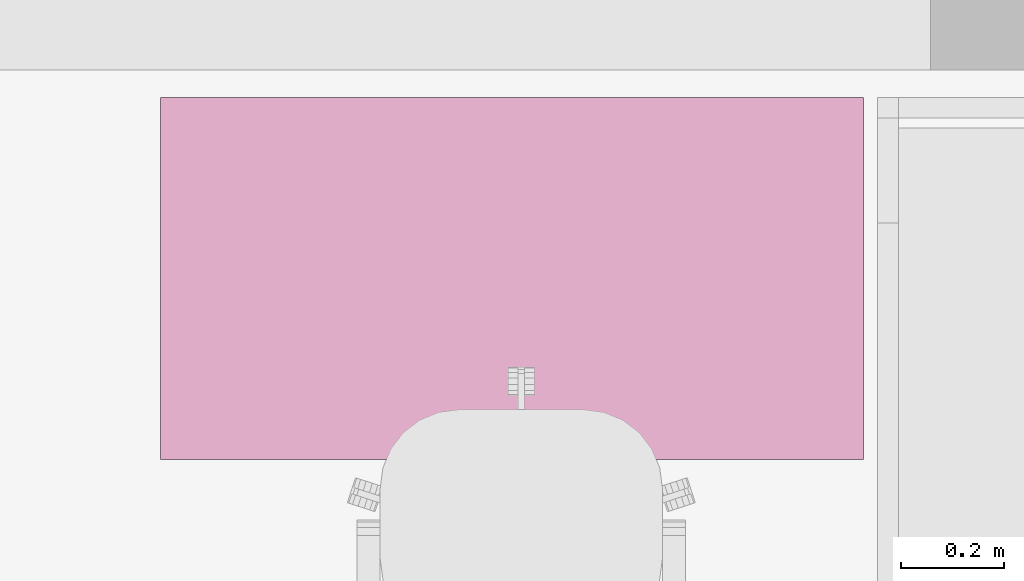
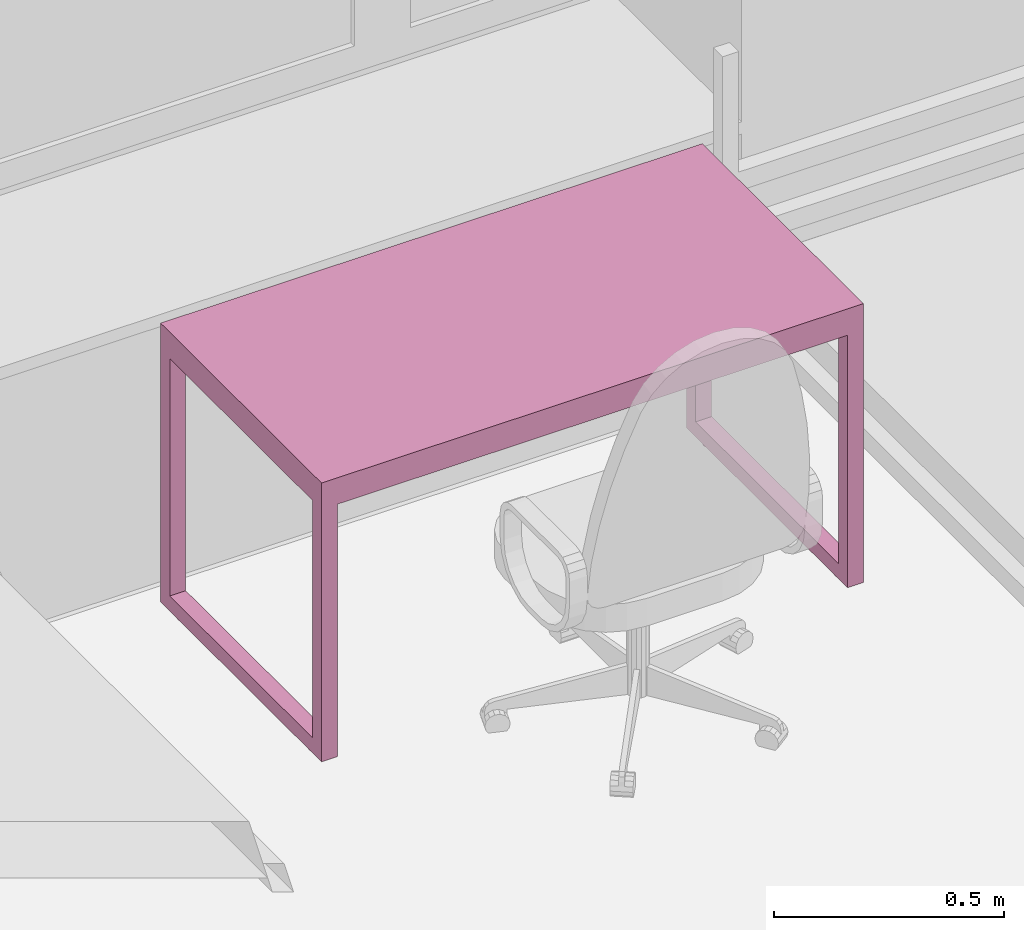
# One storey, part 46 of 46: 1 furnishing.
"""IFC2X3 building model written with IfcOpenShell, lengths in millimetres."""

from ifc_helpers import new_model, entity, si_unit, converted_unit, derived_unit, direction, frame, origin, place, context, subcontext, project, spatial, faceted_brep, source, transform, mapped, material, material_list, type_object, type_shapes, element, save


model = new_model("IFC2X3")

# Units and contexts
model_context = context("Model", 3, precision=0.01, world=origin(), true_north=direction((6.12303176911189e-17, 1.0)))
body_context = subcontext(model_context, "Body", "Model", "MODEL_VIEW")
ifc_project = project(units=[si_unit("LENGTHUNIT", "METRE", prefix="MILLI"), si_unit("AREAUNIT", "SQUARE_METRE"), si_unit("VOLUMEUNIT", "CUBIC_METRE"), converted_unit("PLANEANGLEUNIT", "DEGREE", entity("IfcRatioMeasure", 0.0174532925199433), si_unit("PLANEANGLEUNIT", "RADIAN"), dimensions=[0, 0, 0, 0, 0, 0, 0]), si_unit("MASSUNIT", "GRAM", prefix="KILO"), derived_unit("MASSDENSITYUNIT", [(si_unit("MASSUNIT", "GRAM", prefix="KILO"), 1), (si_unit("LENGTHUNIT", "METRE"), -3)]), si_unit("TIMEUNIT", "SECOND"), si_unit("FREQUENCYUNIT", "HERTZ"), si_unit("THERMODYNAMICTEMPERATUREUNIT", "DEGREE_CELSIUS"), derived_unit("THERMALTRANSMITTANCEUNIT", [(si_unit("MASSUNIT", "GRAM", prefix="KILO"), 1), (si_unit("THERMODYNAMICTEMPERATUREUNIT", "KELVIN"), -1), (si_unit("TIMEUNIT", "SECOND"), -3)]), derived_unit("VOLUMETRICFLOWRATEUNIT", [(si_unit("LENGTHUNIT", "METRE"), 3), (si_unit("TIMEUNIT", "SECOND"), -1)]), si_unit("ELECTRICCURRENTUNIT", "AMPERE"), si_unit("ELECTRICVOLTAGEUNIT", "VOLT"), si_unit("POWERUNIT", "WATT"), si_unit("FORCEUNIT", "NEWTON", prefix="KILO"), si_unit("ILLUMINANCEUNIT", "LUX"), si_unit("LUMINOUSFLUXUNIT", "LUMEN"), si_unit("LUMINOUSINTENSITYUNIT", "CANDELA"), derived_unit("USERDEFINED", [(si_unit("MASSUNIT", "GRAM", prefix="KILO"), -1), (si_unit("LENGTHUNIT", "METRE"), -2), (si_unit("TIMEUNIT", "SECOND"), 3), (si_unit("LUMINOUSFLUXUNIT", "LUMEN"), 1)]), derived_unit("LINEARVELOCITYUNIT", [(si_unit("LENGTHUNIT", "METRE"), 1), (si_unit("TIMEUNIT", "SECOND"), -1)]), si_unit("PRESSUREUNIT", "PASCAL"), derived_unit("USERDEFINED", [(si_unit("LENGTHUNIT", "METRE"), -2), (si_unit("MASSUNIT", "GRAM", prefix="KILO"), 1), (si_unit("TIMEUNIT", "SECOND"), -2)]), derived_unit("LINEARFORCEUNIT", [(si_unit("MASSUNIT", "GRAM", prefix="KILO"), 1), (si_unit("LENGTHUNIT", "METRE"), 1), (si_unit("TIMEUNIT", "SECOND"), -2), (si_unit("LENGTHUNIT", "METRE"), -1)]), derived_unit("PLANARFORCEUNIT", [(si_unit("MASSUNIT", "GRAM", prefix="KILO"), 1), (si_unit("LENGTHUNIT", "METRE"), 1), (si_unit("TIMEUNIT", "SECOND"), -2), (si_unit("LENGTHUNIT", "METRE"), -2)])], contexts=[model_context])

# Site, building, storey, space
site_placement = place(None, origin())
site = spatial("IfcSite", under=ifc_project, at=site_placement, Name="Default", CompositionType="ELEMENT")
building_placement = place(site_placement, origin())
building = spatial("IfcBuilding", under=site, at=building_placement, Name="SMA ARH", CompositionType="ELEMENT")
storey_placement = place(building_placement, frame((0.0, 0.0, 9910.0)))
storey = spatial("IfcBuildingStorey", under=building, at=storey_placement, Name="4 Korrus", CompositionType="ELEMENT", Elevation=9909.9999999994)
space_placement = place(storey_placement, origin())
space = spatial("IfcSpace", under=storey, at=space_placement, Name="4-31/1", CompositionType="ELEMENT", InteriorOrExteriorSpace="INTERNAL")

# Furnishing
ifc_material = material(Name="<Unnamed>")
ifc_material_list = material_list([ifc_material, ifc_material])
furniture_type = type_object("IfcFurnitureType", Name="kirjutuslaud 1360x700mm:kirjutuslaud 1360x700mm", material=ifc_material_list)
shared_shape = source(origin(), body_context, "Body", "Brep", [
    faceted_brep([(680.0, -350.0, 720.0), (680.0, 350.0, 720.0), (680.0, 350.0, 750.0), (680.0, -350.0, 750.0), (-680.0, -350.0, 720.0), (-680.0, -350.0, 750.0), (-680.0, 350.0, 750.0), (-680.0, 350.0, 720.0)], [[[0, 1, 2, 3]], [[4, 5, 6, 7]], [[1, 0, 4, 7]], [[2, 1, 7, 6]], [[3, 2, 6, 5]], [[0, 3, 5, 4]]]),
    faceted_brep([(-640.0, -310.0, 680.0), (-640.0, 310.0, 680.0), (-640.0, 310.0, 720.0), (-640.0, -310.0, 720.0), (-680.0, -350.0, 720.0), (-680.0, 350.0, 720.0), (-680.0, 350.0, 10.0), (-680.0, -350.0, 10.0), (-680.0, 310.0, 680.0), (-680.0, -310.0, 680.0), (-680.0, -310.0, 50.0), (-680.0, 310.0, 50.0), (-640.0, -350.0, 10.0), (-640.0, -350.0, 680.0), (640.0, -350.0, 680.0), (640.0, -350.0, 10.0), (680.0, -350.0, 10.0), (680.0, -350.0, 720.0), (-640.0, 350.0, 10.0), (680.0, 350.0, 720.0), (680.0, 350.0, 10.0), (640.0, 350.0, 10.0), (640.0, 350.0, 680.0), (-640.0, 350.0, 680.0), (640.0, 310.0, 720.0), (640.0, -310.0, 720.0), (-640.0, 310.0, 50.0), (-640.0, -310.0, 50.0), (640.0, -310.0, 680.0), (640.0, 310.0, 680.0), (680.0, 310.0, 680.0), (680.0, 310.0, 50.0), (680.0, -310.0, 50.0), (680.0, -310.0, 680.0), (640.0, -310.0, 50.0), (640.0, 310.0, 50.0)], [[[0, 1, 2, 3]], [[4, 5, 6, 7], [8, 9, 10, 11]], [[4, 7, 12, 13, 14, 15, 16, 17]], [[18, 12, 7, 6]], [[6, 5, 19, 20, 21, 22, 23, 18]], [[19, 5, 4, 17], [2, 24, 25, 3]], [[26, 1, 8, 11]], [[27, 26, 11, 10]], [[0, 27, 10, 9]], [[1, 0, 9, 8]], [[14, 13, 0, 28]], [[24, 2, 1, 29]], [[3, 25, 28, 0]], [[17, 16, 20, 19], [30, 31, 32, 33]], [[21, 15, 14, 28, 34, 35, 29, 22]], [[20, 16, 15, 21]], [[31, 30, 29, 35]], [[32, 31, 35, 34]], [[33, 32, 34, 28]], [[30, 33, 28, 29]], [[29, 28, 25, 24]], [[29, 1, 23, 22]], [[12, 18, 23, 1, 26, 27, 0, 13]]]),
    faceted_brep([(-663.729456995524, -270.466136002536, 0.0), (-659.847171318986, -269.955023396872, 0.0), (-655.964885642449, -270.466136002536, 0.0), (-652.347171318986, -271.964642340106, 0.0), (-649.240569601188, -274.348421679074, 0.0), (-646.85679026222, -277.455023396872, 0.0), (-645.35828392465, -281.072737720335, 0.0), (-644.847171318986, -284.955023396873, 0.0), (-645.35828392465, -288.83730907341, 0.0), (-646.85679026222, -292.455023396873, 0.0), (-649.240569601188, -295.561625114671, 0.0), (-652.347171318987, -297.945404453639, 0.0), (-655.964885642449, -299.443910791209, 0.0), (-659.847171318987, -299.955023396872, 0.0), (-663.729456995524, -299.443910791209, 0.0), (-667.347171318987, -297.945404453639, 0.0), (-670.453773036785, -295.561625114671, 0.0), (-672.837552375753, -292.455023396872, 0.0), (-674.336058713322, -288.83730907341, 0.0), (-674.847171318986, -284.955023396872, 0.0), (-674.336058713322, -281.072737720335, 0.0), (-672.837552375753, -277.455023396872, 0.0), (-670.453773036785, -274.348421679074, 0.0), (-667.347171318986, -271.964642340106, 0.0), (-655.964885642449, -299.443910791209, 10.0), (-652.347171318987, -297.945404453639, 10.0), (-649.240569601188, -295.561625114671, 10.0), (-646.85679026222, -292.455023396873, 10.0), (-645.35828392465, -288.83730907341, 10.0), (-644.847171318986, -284.955023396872, 10.0), (-645.35828392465, -281.072737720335, 10.0), (-646.85679026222, -277.455023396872, 10.0), (-649.240569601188, -274.348421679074, 10.0), (-652.347171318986, -271.964642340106, 10.0), (-655.964885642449, -270.466136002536, 10.0), (-659.847171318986, -269.955023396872, 10.0), (-663.729456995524, -270.466136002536, 10.0), (-667.347171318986, -271.964642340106, 10.0), (-670.453773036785, -274.348421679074, 10.0), (-672.837552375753, -277.455023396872, 10.0), (-674.336058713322, -281.072737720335, 10.0), (-674.847171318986, -284.955023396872, 10.0), (-674.336058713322, -288.83730907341, 10.0), (-672.837552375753, -292.455023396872, 10.0), (-670.453773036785, -295.561625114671, 10.0), (-667.347171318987, -297.945404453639, 10.0), (-663.729456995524, -299.443910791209, 10.0), (-659.847171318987, -299.955023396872, 10.0)], [[[0, 1, 2, 3, 4, 5, 6, 7, 8, 9, 10, 11, 12, 13, 14, 15, 16, 17, 18, 19, 20, 21, 22, 23]], [[24, 25, 26, 27, 28, 29, 30, 31, 32, 33, 34, 35, 36, 37, 38, 39, 40, 41, 42, 43, 44, 45, 46, 47]], [[18, 42, 41, 19]], [[17, 43, 42, 18]], [[45, 44, 16, 15]], [[17, 16, 44, 43]], [[46, 45, 15, 14]], [[47, 46, 14, 13]], [[12, 24, 47, 13]], [[11, 25, 24, 12]], [[27, 26, 10, 9]], [[11, 10, 26, 25]], [[28, 27, 9, 8]], [[29, 28, 8, 7]], [[6, 30, 29, 7]], [[5, 31, 30, 6]], [[33, 32, 4, 3]], [[5, 4, 32, 31]], [[34, 33, 3, 2]], [[35, 34, 2, 1]], [[0, 36, 35, 1]], [[23, 37, 36, 0]], [[39, 38, 22, 21]], [[23, 22, 38, 37]], [[40, 39, 21, 20]], [[41, 40, 20, 19]]]),
    faceted_brep([(-655.964885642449, 270.466136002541, 10.0), (-652.347171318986, 271.964642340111, 10.0), (-649.240569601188, 274.348421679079, 10.0), (-646.85679026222, 277.455023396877, 10.0), (-645.35828392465, 281.07273772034, 10.0), (-644.847171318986, 284.955023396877, 10.0), (-645.35828392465, 288.837309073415, 10.0), (-646.85679026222, 292.455023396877, 10.0), (-649.240569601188, 295.561625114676, 10.0), (-652.347171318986, 297.945404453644, 10.0), (-655.964885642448, 299.443910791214, 10.0), (-659.847171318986, 299.955023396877, 10.0), (-663.729456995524, 299.443910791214, 10.0), (-667.347171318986, 297.945404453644, 10.0), (-670.453773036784, 295.561625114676, 10.0), (-672.837552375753, 292.455023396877, 10.0), (-674.336058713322, 288.837309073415, 10.0), (-674.847171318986, 284.955023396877, 10.0), (-674.336058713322, 281.07273772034, 10.0), (-672.837552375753, 277.455023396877, 10.0), (-670.453773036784, 274.348421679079, 10.0), (-667.347171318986, 271.964642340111, 10.0), (-663.729456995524, 270.466136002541, 10.0), (-659.847171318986, 269.955023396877, 10.0), (-655.964885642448, 299.443910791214, 0.0), (-652.347171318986, 297.945404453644, 0.0), (-649.240569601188, 295.561625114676, 0.0), (-646.85679026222, 292.455023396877, 0.0), (-645.35828392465, 288.837309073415, 0.0), (-644.847171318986, 284.955023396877, 0.0), (-645.35828392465, 281.07273772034, 0.0), (-646.85679026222, 277.455023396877, 0.0), (-649.240569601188, 274.348421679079, 0.0), (-652.347171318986, 271.964642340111, 0.0), (-655.964885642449, 270.466136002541, 0.0), (-659.847171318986, 269.955023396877, 0.0), (-663.729456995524, 270.466136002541, 0.0), (-667.347171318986, 271.964642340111, 0.0), (-670.453773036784, 274.348421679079, 0.0), (-672.837552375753, 277.455023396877, 0.0), (-674.336058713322, 281.07273772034, 0.0), (-674.847171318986, 284.955023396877, 0.0), (-674.336058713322, 288.837309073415, 0.0), (-672.837552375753, 292.455023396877, 0.0), (-670.453773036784, 295.561625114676, 0.0), (-667.347171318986, 297.945404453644, 0.0), (-663.729456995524, 299.443910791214, 0.0), (-659.847171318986, 299.955023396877, 0.0)], [[[0, 1, 2, 3, 4, 5, 6, 7, 8, 9, 10, 11, 12, 13, 14, 15, 16, 17, 18, 19, 20, 21, 22, 23]], [[24, 25, 26, 27, 28, 29, 30, 31, 32, 33, 34, 35, 36, 37, 38, 39, 40, 41, 42, 43, 44, 45, 46, 47]], [[40, 18, 17, 41]], [[39, 19, 18, 40]], [[21, 20, 38, 37]], [[39, 38, 20, 19]], [[22, 21, 37, 36]], [[23, 22, 36, 35]], [[34, 0, 23, 35]], [[33, 1, 0, 34]], [[3, 2, 32, 31]], [[33, 32, 2, 1]], [[4, 3, 31, 30]], [[5, 4, 30, 29]], [[28, 6, 5, 29]], [[27, 7, 6, 28]], [[9, 8, 26, 25]], [[27, 26, 8, 7]], [[10, 9, 25, 24]], [[11, 10, 24, 47]], [[46, 12, 11, 47]], [[45, 13, 12, 46]], [[15, 14, 44, 43]], [[45, 44, 14, 13]], [[16, 15, 43, 42]], [[17, 16, 42, 41]]]),
    faceted_brep([(656.270543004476, -270.466136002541, 0.0), (660.152828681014, -269.955023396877, 0.0), (664.035114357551, -270.466136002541, 0.0), (667.652828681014, -271.96464234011, 0.0), (670.759430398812, -274.348421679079, 0.0), (673.14320973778, -277.455023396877, 0.0), (674.64171607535, -281.072737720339, 0.0), (675.152828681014, -284.955023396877, 0.0), (674.64171607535, -288.837309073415, 0.0), (673.14320973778, -292.455023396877, 0.0), (670.759430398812, -295.561625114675, 0.0), (667.652828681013, -297.945404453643, 0.0), (664.035114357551, -299.443910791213, 0.0), (660.152828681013, -299.955023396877, 0.0), (656.270543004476, -299.443910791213, 0.0), (652.652828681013, -297.945404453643, 0.0), (649.546226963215, -295.561625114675, 0.0), (647.162447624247, -292.455023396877, 0.0), (645.663941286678, -288.837309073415, 0.0), (645.152828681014, -284.955023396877, 0.0), (645.663941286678, -281.072737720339, 0.0), (647.162447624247, -277.455023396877, 0.0), (649.546226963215, -274.348421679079, 0.0), (652.652828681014, -271.96464234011, 0.0), (664.035114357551, -299.443910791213, 10.0), (667.652828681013, -297.945404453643, 10.0), (670.759430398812, -295.561625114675, 10.0), (673.14320973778, -292.455023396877, 10.0), (674.64171607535, -288.837309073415, 10.0), (675.152828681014, -284.955023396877, 10.0), (674.64171607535, -281.072737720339, 10.0), (673.14320973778, -277.455023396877, 10.0), (670.759430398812, -274.348421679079, 10.0), (667.652828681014, -271.96464234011, 10.0), (664.035114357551, -270.466136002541, 10.0), (660.152828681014, -269.955023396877, 10.0), (656.270543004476, -270.466136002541, 10.0), (652.652828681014, -271.96464234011, 10.0), (649.546226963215, -274.348421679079, 10.0), (647.162447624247, -277.455023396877, 10.0), (645.663941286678, -281.072737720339, 10.0), (645.152828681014, -284.955023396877, 10.0), (645.663941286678, -288.837309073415, 10.0), (647.162447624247, -292.455023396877, 10.0), (649.546226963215, -295.561625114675, 10.0), (652.652828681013, -297.945404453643, 10.0), (656.270543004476, -299.443910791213, 10.0), (660.152828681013, -299.955023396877, 10.0)], [[[0, 1, 2, 3, 4, 5, 6, 7, 8, 9, 10, 11, 12, 13, 14, 15, 16, 17, 18, 19, 20, 21, 22, 23]], [[24, 25, 26, 27, 28, 29, 30, 31, 32, 33, 34, 35, 36, 37, 38, 39, 40, 41, 42, 43, 44, 45, 46, 47]], [[18, 42, 41, 19]], [[17, 43, 42, 18]], [[45, 44, 16, 15]], [[17, 16, 44, 43]], [[46, 45, 15, 14]], [[47, 46, 14, 13]], [[12, 24, 47, 13]], [[11, 25, 24, 12]], [[27, 26, 10, 9]], [[11, 10, 26, 25]], [[28, 27, 9, 8]], [[29, 28, 8, 7]], [[6, 30, 29, 7]], [[5, 31, 30, 6]], [[33, 32, 4, 3]], [[5, 4, 32, 31]], [[34, 33, 3, 2]], [[35, 34, 2, 1]], [[0, 36, 35, 1]], [[23, 37, 36, 0]], [[39, 38, 22, 21]], [[23, 22, 38, 37]], [[40, 39, 21, 20]], [[41, 40, 20, 19]]]),
    faceted_brep([(664.035114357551, 270.466136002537, 10.0), (667.652828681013, 271.964642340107, 10.0), (670.759430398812, 274.348421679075, 10.0), (673.14320973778, 277.455023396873, 10.0), (674.64171607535, 281.072737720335, 10.0), (675.152828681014, 284.955023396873, 10.0), (674.64171607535, 288.837309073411, 10.0), (673.14320973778, 292.455023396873, 10.0), (670.759430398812, 295.561625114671, 10.0), (667.652828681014, 297.94540445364, 10.0), (664.035114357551, 299.443910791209, 10.0), (660.152828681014, 299.955023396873, 10.0), (656.270543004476, 299.443910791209, 10.0), (652.652828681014, 297.94540445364, 10.0), (649.546226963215, 295.561625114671, 10.0), (647.162447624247, 292.455023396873, 10.0), (645.663941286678, 288.837309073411, 10.0), (645.152828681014, 284.955023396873, 10.0), (645.663941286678, 281.072737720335, 10.0), (647.162447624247, 277.455023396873, 10.0), (649.546226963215, 274.348421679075, 10.0), (652.652828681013, 271.964642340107, 10.0), (656.270543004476, 270.466136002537, 10.0), (660.152828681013, 269.955023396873, 10.0), (664.035114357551, 299.443910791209, 0.0), (667.652828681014, 297.94540445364, 0.0), (670.759430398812, 295.561625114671, 0.0), (673.14320973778, 292.455023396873, 0.0), (674.64171607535, 288.837309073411, 0.0), (675.152828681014, 284.955023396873, 0.0), (674.64171607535, 281.072737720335, 0.0), (673.14320973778, 277.455023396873, 0.0), (670.759430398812, 274.348421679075, 0.0), (667.652828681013, 271.964642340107, 0.0), (664.035114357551, 270.466136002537, 0.0), (660.152828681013, 269.955023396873, 0.0), (656.270543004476, 270.466136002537, 0.0), (652.652828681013, 271.964642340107, 0.0), (649.546226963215, 274.348421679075, 0.0), (647.162447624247, 277.455023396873, 0.0), (645.663941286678, 281.072737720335, 0.0), (645.152828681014, 284.955023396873, 0.0), (645.663941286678, 288.837309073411, 0.0), (647.162447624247, 292.455023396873, 0.0), (649.546226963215, 295.561625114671, 0.0), (652.652828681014, 297.94540445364, 0.0), (656.270543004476, 299.443910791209, 0.0), (660.152828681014, 299.955023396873, 0.0)], [[[0, 1, 2, 3, 4, 5, 6, 7, 8, 9, 10, 11, 12, 13, 14, 15, 16, 17, 18, 19, 20, 21, 22, 23]], [[24, 25, 26, 27, 28, 29, 30, 31, 32, 33, 34, 35, 36, 37, 38, 39, 40, 41, 42, 43, 44, 45, 46, 47]], [[40, 18, 17, 41]], [[39, 19, 18, 40]], [[21, 20, 38, 37]], [[39, 38, 20, 19]], [[22, 21, 37, 36]], [[23, 22, 36, 35]], [[34, 0, 23, 35]], [[33, 1, 0, 34]], [[3, 2, 32, 31]], [[33, 32, 2, 1]], [[4, 3, 31, 30]], [[5, 4, 30, 29]], [[28, 6, 5, 29]], [[27, 7, 6, 28]], [[9, 8, 26, 25]], [[27, 26, 8, 7]], [[10, 9, 25, 24]], [[11, 10, 24, 47]], [[46, 12, 11, 47]], [[45, 13, 12, 46]], [[15, 14, 44, 43]], [[45, 44, 14, 13]], [[16, 15, 43, 42]], [[17, 16, 42, 41]]]),
])
type_shapes(furniture_type, [shared_shape])
furnishing_placement = place(space_placement, frame((36770.6075367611, 12096.686384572, 0.0)))
element("IfcFurnishingElement", 1, at=furnishing_placement, inside=space, type_object=furniture_type, Name="kirjutuslaud 1360x700mm:kirjutuslaud 1360x700mm", ObjectType="kirjutuslaud 1360x700mm:kirjutuslaud 1360x700mm", context=body_context, shape_type="MappedRepresentation", body=[
    mapped(shared_shape, transform((0.0, 0.0, 0.0), scale=1.0)),
])

save(model, "model.ifc")
